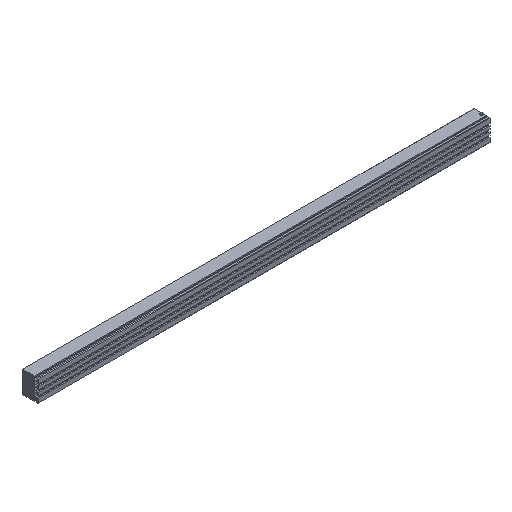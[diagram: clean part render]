
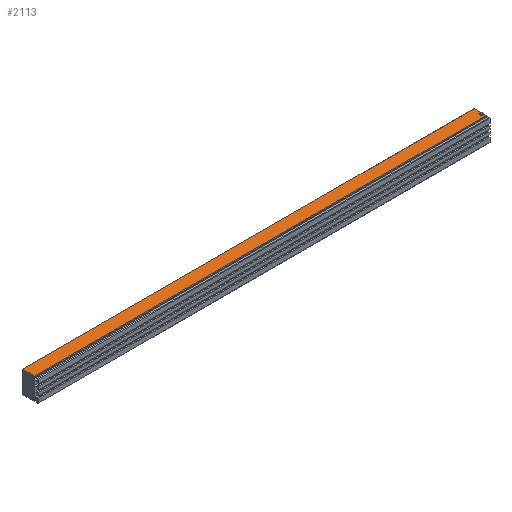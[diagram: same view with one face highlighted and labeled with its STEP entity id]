
A CAD part, isometric view. The second image highlights one B-rep face of the part: STEP entity #2113.
In plain terms, the highlighted planar face has unit normal (0, 0, 1).
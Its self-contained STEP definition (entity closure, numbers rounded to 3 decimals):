
#153 = VECTOR ( 'NONE', #1576, 1000. ) ;
#157 = DIRECTION ( 'NONE',  ( 0., -1., 0. ) ) ;
#203 = VERTEX_POINT ( 'NONE', #400 ) ;
#322 = EDGE_CURVE ( 'NONE', #488, #1716, #1897, .T. ) ;
#351 = EDGE_CURVE ( 'NONE', #203, #1716, #1870, .T. ) ;
#400 = CARTESIAN_POINT ( 'NONE',  ( 0., 6.6, 0. ) ) ;
#488 = VERTEX_POINT ( 'NONE', #1564 ) ;
#507 = CARTESIAN_POINT ( 'NONE',  ( 0., 6.6, 0. ) ) ;
#572 = CARTESIAN_POINT ( 'NONE',  ( 760., 6.6, 0. ) ) ;
#573 = CARTESIAN_POINT ( 'NONE',  ( 759., 11.392, 0. ) ) ;
#651 = DIRECTION ( 'NONE',  ( -1., 0., 0. ) ) ;
#662 = CARTESIAN_POINT ( 'NONE',  ( 760., 0., 0. ) ) ;
#671 = PLANE ( 'NONE',  #776 ) ;
#707 = CIRCLE ( 'NONE', #1880, 1.85 ) ;
#723 = ORIENTED_EDGE ( 'NONE', *, *, #1890, .T. ) ;
#747 = CARTESIAN_POINT ( 'NONE',  ( 755.3, 11.392, 0. ) ) ;
#776 = AXIS2_PLACEMENT_3D ( 'NONE', #662, #1019, #833 ) ;
#833 = DIRECTION ( 'NONE',  ( -1., 0., 0. ) ) ;
#865 = CARTESIAN_POINT ( 'NONE',  ( 760., 0., 0. ) ) ;
#871 = DIRECTION ( 'NONE',  ( 1., 0., 0. ) ) ;
#947 = DIRECTION ( 'NONE',  ( 0., 0., 1. ) ) ;
#970 = VERTEX_POINT ( 'NONE', #1120 ) ;
#1019 = DIRECTION ( 'NONE',  ( 0., 0., -1. ) ) ;
#1120 = CARTESIAN_POINT ( 'NONE',  ( 0., 26.7, 0. ) ) ;
#1127 = ORIENTED_EDGE ( 'NONE', *, *, #1161, .F. ) ;
#1140 = ORIENTED_EDGE ( 'NONE', *, *, #351, .T. ) ;
#1161 = EDGE_CURVE ( 'NONE', #1311, #1368, #707, .T. ) ;
#1169 = EDGE_CURVE ( 'NONE', #970, #203, #1579, .T. ) ;
#1206 = ORIENTED_EDGE ( 'NONE', *, *, #322, .F. ) ;
#1273 = VECTOR ( 'NONE', #157, 1000. ) ;
#1296 = DIRECTION ( 'NONE',  ( -1., 0., 0. ) ) ;
#1311 = VERTEX_POINT ( 'NONE', #573 ) ;
#1330 = FACE_OUTER_BOUND ( 'NONE', #1377, .T. ) ;
#1368 = VERTEX_POINT ( 'NONE', #747 ) ;
#1377 = EDGE_LOOP ( 'NONE', ( #1206, #723, #1486, #1140 ) ) ;
#1388 = ORIENTED_EDGE ( 'NONE', *, *, #1643, .F. ) ;
#1437 = DIRECTION ( 'NONE',  ( -1., 0., 0. ) ) ;
#1486 = ORIENTED_EDGE ( 'NONE', *, *, #1169, .T. ) ;
#1549 = VECTOR ( 'NONE', #651, 1000. ) ;
#1564 = CARTESIAN_POINT ( 'NONE',  ( 760., 26.7, 0. ) ) ;
#1576 = DIRECTION ( 'NONE',  ( 0., -1., 0. ) ) ;
#1579 = LINE ( 'NONE', #2115, #153 ) ;
#1585 = LINE ( 'NONE', #1741, #1549 ) ;
#1643 = EDGE_CURVE ( 'NONE', #1368, #1311, #1988, .T. ) ;
#1668 = CARTESIAN_POINT ( 'NONE',  ( 757.15, 11.392, 0. ) ) ;
#1716 = VERTEX_POINT ( 'NONE', #572 ) ;
#1741 = CARTESIAN_POINT ( 'NONE',  ( 760., 26.7, 0. ) ) ;
#1750 = AXIS2_PLACEMENT_3D ( 'NONE', #1668, #947, #1296 ) ;
#1870 = LINE ( 'NONE', #507, #2324 ) ;
#1880 = AXIS2_PLACEMENT_3D ( 'NONE', #1997, #1945, #1437 ) ;
#1890 = EDGE_CURVE ( 'NONE', #488, #970, #1585, .T. ) ;
#1897 = LINE ( 'NONE', #865, #1273 ) ;
#1945 = DIRECTION ( 'NONE',  ( 0., 0., 1. ) ) ;
#1988 = CIRCLE ( 'NONE', #1750, 1.85 ) ;
#1997 = CARTESIAN_POINT ( 'NONE',  ( 757.15, 11.392, 0. ) ) ;
#2005 = FACE_BOUND ( 'NONE', #2134, .T. ) ;
#2113 = ADVANCED_FACE ( 'NONE', ( #2005, #1330 ), #671, .F. ) ;
#2115 = CARTESIAN_POINT ( 'NONE',  ( 0., 0., 0. ) ) ;
#2134 = EDGE_LOOP ( 'NONE', ( #1388, #1127 ) ) ;
#2324 = VECTOR ( 'NONE', #871, 1000. ) ;
